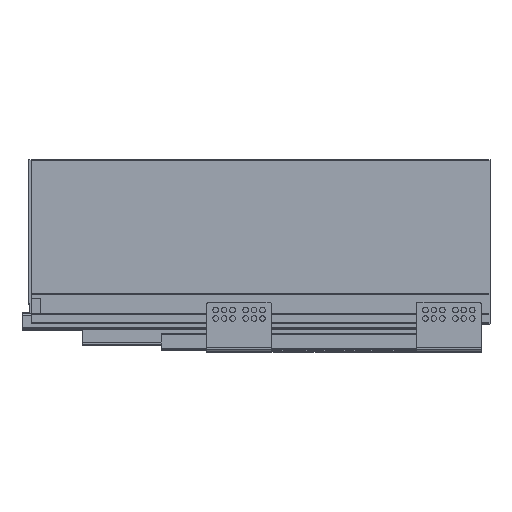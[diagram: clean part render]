
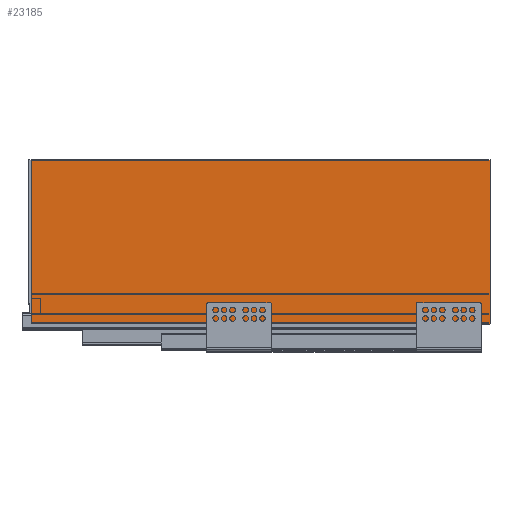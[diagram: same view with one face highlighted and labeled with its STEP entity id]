
A CAD part, top view. The second image highlights one B-rep face of the part: STEP entity #23185.
In plain terms, the highlighted planar face has unit normal (0, 0, 1).
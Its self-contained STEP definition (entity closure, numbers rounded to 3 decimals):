
#570=PLANE('',#24569);
#1523=FACE_OUTER_BOUND('',#2804,.T.);
#2804=EDGE_LOOP('',(#16214,#16215,#16216,#16217));
#4518=LINE('',#33431,#7157);
#4520=LINE('',#33435,#7159);
#4521=LINE('',#33437,#7160);
#4522=LINE('',#33438,#7161);
#7157=VECTOR('',#26909,10.);
#7159=VECTOR('',#26913,10.);
#7160=VECTOR('',#26914,10.);
#7161=VECTOR('',#26915,10.);
#10371=VERTEX_POINT('',#33428);
#10372=VERTEX_POINT('',#33430);
#10373=VERTEX_POINT('',#33434);
#10374=VERTEX_POINT('',#33436);
#12686=EDGE_CURVE('',#10371,#10372,#4518,.T.);
#12688=EDGE_CURVE('',#10371,#10373,#4520,.T.);
#12689=EDGE_CURVE('',#10373,#10374,#4521,.T.);
#12690=EDGE_CURVE('',#10374,#10372,#4522,.T.);
#16214=ORIENTED_EDGE('',*,*,#12688,.T.);
#16215=ORIENTED_EDGE('',*,*,#12689,.T.);
#16216=ORIENTED_EDGE('',*,*,#12690,.T.);
#16217=ORIENTED_EDGE('',*,*,#12686,.F.);
#23185=ADVANCED_FACE('',(#1523),#570,.F.);
#24569=AXIS2_PLACEMENT_3D('',#33433,#26911,#26912);
#26909=DIRECTION('',(1.,0.,0.));
#26911=DIRECTION('center_axis',(0.,0.,-1.));
#26912=DIRECTION('ref_axis',(0.,1.,0.));
#26913=DIRECTION('',(0.,-1.,0.));
#26914=DIRECTION('',(1.,0.,0.));
#26915=DIRECTION('',(0.,1.,0.));
#33428=CARTESIAN_POINT('',(0.,175.,535.));
#33430=CARTESIAN_POINT('',(490.,175.,535.));
#33431=CARTESIAN_POINT('',(0.,175.,535.));
#33433=CARTESIAN_POINT('Origin',(0.,0.,535.));
#33434=CARTESIAN_POINT('',(0.,0.,535.));
#33435=CARTESIAN_POINT('',(0.,175.,535.));
#33436=CARTESIAN_POINT('',(490.,0.,535.));
#33437=CARTESIAN_POINT('',(0.,0.,535.));
#33438=CARTESIAN_POINT('',(490.,175.,535.));
